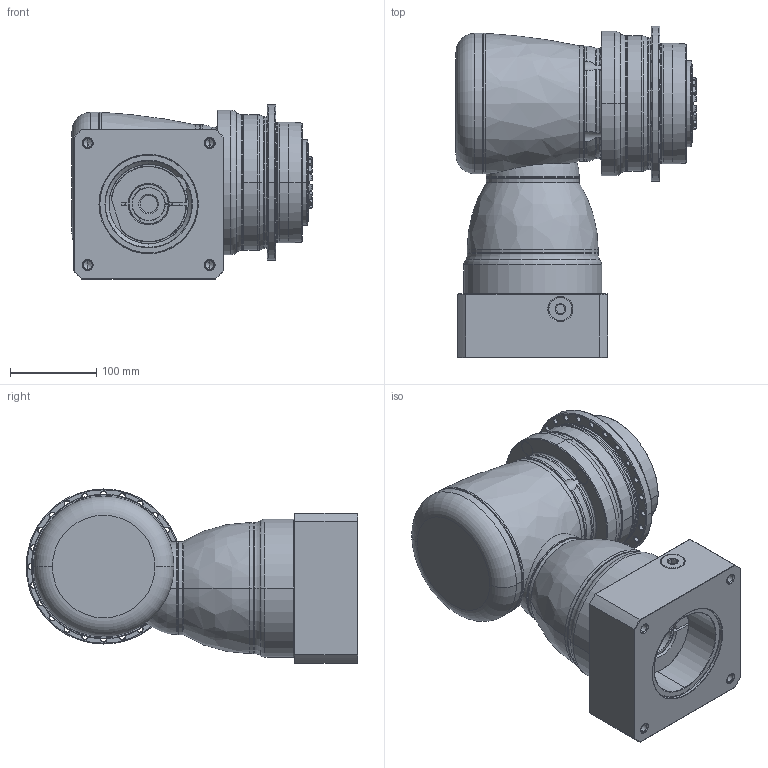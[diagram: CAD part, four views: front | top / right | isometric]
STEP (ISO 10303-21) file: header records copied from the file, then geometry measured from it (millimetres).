
FILE_DESCRIPTION((''),'2;1');
FILE_NAME('APCK140_2ST_38-P0409910201_ASM','2018-05-09T',('d01226'),(''),'PRO/ENGINEER BY PARAMETRIC TECHNOLOGY CORPORATION, 2008410','PRO/ENGINEER BY PARAMETRIC TECHNOLOGY CORPORATION, 2008410','');
FILE_SCHEMA(('CONFIG_CONTROL_DESIGN'));
Length unit declared in the file: millimetre
Products named in the file (13): P1008500002; P1802510011; P0278501003; P03595D0103; P1211500001; P1315500001; P1007501001; P1318501401; P0409910201; P0503900012; P0912554001; 21711422019; APCK140_2ST_38-P0409910201_ASM
Assembly tree (12 placements, depth 2):
  APCK140_2ST_38-P0409910201_ASM
    P1008500002
    P1802510011
    P0278501003
    P03595D0103
    P1211500001
    P1315500001
    P1007501001
    P1318501401
    P0409910201
    P0503900012
    P0912554001
    21711422019
Bounding box: 278.6 x 385 x 202 mm (x, y, z)
Volume: 8894460.7 mm3; surface area: 761254 mm2
Topology: 13 solids, 23 shells, 790 faces, 1871 edges, 1152 vertices
Faces by surface type: cylinder 263, cone 232, plane 145, torus 129, bspline 19, sphere 2
Entity records: 29046 total; most frequent: CARTESIAN_POINT 10228, DIRECTION 4222, ORIENTED_EDGE 3672, EDGE_CURVE 1857, AXIS2_PLACEMENT_3D 1845, VERTEX_POINT 1152, CIRCLE 1039, EDGE_LOOP 913
